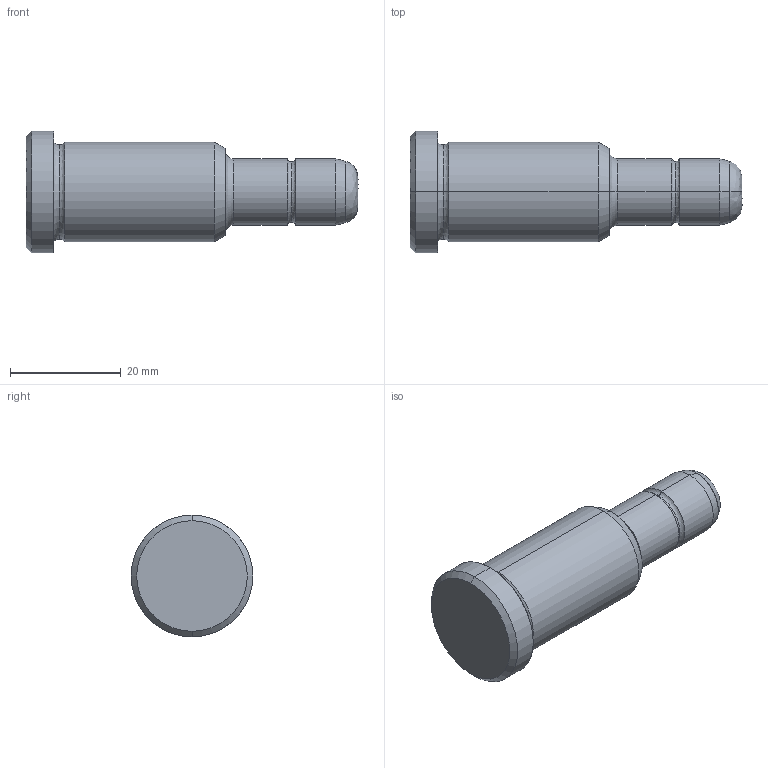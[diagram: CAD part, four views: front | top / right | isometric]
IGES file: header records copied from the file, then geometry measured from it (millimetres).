
Start section: START RECORD GO HERE.
Global section: file name: 351-12X36X60.igs; native system: DASSAULT SYSTEMES CATIA V5 R20 - www.3ds.com; preprocessor: CATIA Version 5 Release 20 ; author: Utente; organization: NB04-ASUS; date: 20210817.143103; units: millimetre
Bounding box: 60 x 22 x 22 mm (x, y, z)
Surface area: 3603.5 mm2 (no closed solid volume)
Topology: 0 solids, 0 shells, 30 faces, 172 edges, 172 vertices
Faces by surface type: revolution 24, plane 4, bspline 2
